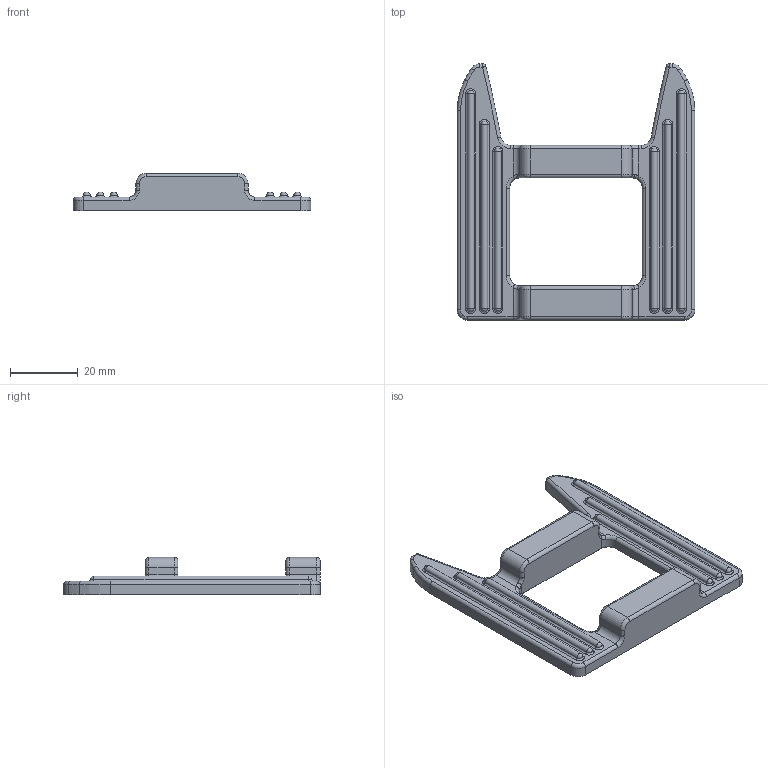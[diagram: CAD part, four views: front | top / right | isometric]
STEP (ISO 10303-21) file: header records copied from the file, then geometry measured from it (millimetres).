
FILE_DESCRIPTION(/* description */ (''),/* implementation_level */ '2;1');
FILE_NAME(/* name */ '2026_Rudder_New Part 02.stp',/* time_stamp */ '2026-01-28T01:45:36+09:00',/* author */ (''),/* organization */ (''),/* preprocessor_version */ 'ST-DEVELOPER v11',/* originating_system */ 'SIEMENS PLM Software NX 7.5',/* authorisation */ '');
FILE_SCHEMA (('CONFIG_CONTROL_DESIGN'));
Length unit declared in the file: millimetre
Products named in the file (1): gyun52C2h81f
Bounding box: 70.1 x 75.6 x 11 mm (x, y, z)
Volume: 16710.9 mm3; surface area: 8969.9 mm2
Topology: 1 solids, 1 shells, 155 faces, 376 edges, 214 vertices
Faces by surface type: cylinder 66, torus 44, plane 23, sphere 14, cone 4, bspline 4
Entity records: 4534 total; most frequent: CARTESIAN_POINT 861, DIRECTION 856, ORIENTED_EDGE 700, AXIS2_PLACEMENT_3D 361, EDGE_CURVE 350, CIRCLE 208, VERTEX_POINT 202, EDGE_LOOP 162
